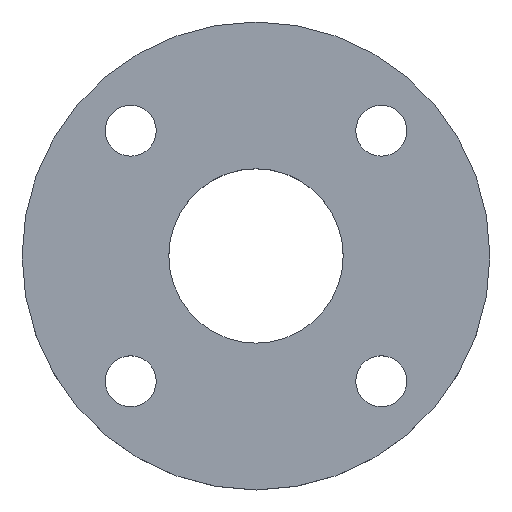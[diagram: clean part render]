
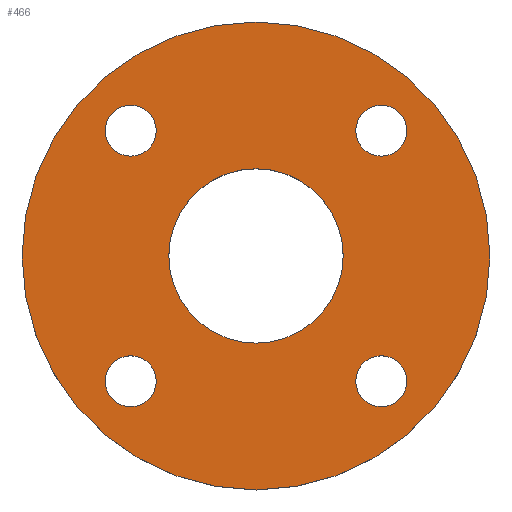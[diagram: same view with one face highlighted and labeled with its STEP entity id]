
A CAD part, top view. The second image highlights one B-rep face of the part: STEP entity #466.
In plain terms, the highlighted planar face has unit normal (0, 0, 1).
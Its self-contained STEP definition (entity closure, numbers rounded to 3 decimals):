
#1 = CIRCLE ( 'NONE', #52, 82.5 ) ;
#5 = EDGE_CURVE ( 'NONE', #103, #34, #19, .T. ) ;
#6 = EDGE_CURVE ( 'NONE', #61, #118, #1, .T. ) ;
#9 = AXIS2_PLACEMENT_3D ( 'NONE', #166, #167, #168 ) ;
#13 = ORIENTED_EDGE ( 'NONE', *, *, #5, .T. ) ;
#19 = CIRCLE ( 'NONE', #9, 9. ) ;
#26 = DIRECTION ( 'NONE',  ( 0., 0., -1. ) ) ;
#27 = EDGE_CURVE ( 'NONE', #79, #62, #131, .T. ) ;
#34 = VERTEX_POINT ( 'NONE', #189 ) ;
#47 = ORIENTED_EDGE ( 'NONE', *, *, #416, .T. ) ;
#50 = ORIENTED_EDGE ( 'NONE', *, *, #237, .T. ) ;
#52 = AXIS2_PLACEMENT_3D ( 'NONE', #169, #170, #171 ) ;
#58 = ORIENTED_EDGE ( 'NONE', *, *, #352, .T. ) ;
#61 = VERTEX_POINT ( 'NONE', #199 ) ;
#62 = VERTEX_POINT ( 'NONE', #200 ) ;
#64 = VERTEX_POINT ( 'NONE', #201 ) ;
#67 = VERTEX_POINT ( 'NONE', #203 ) ;
#68 = VERTEX_POINT ( 'NONE', #205 ) ;
#71 = ORIENTED_EDGE ( 'NONE', *, *, #507, .T. ) ;
#73 = AXIS2_PLACEMENT_3D ( 'NONE', #244, #245, #247 ) ;
#74 = CIRCLE ( 'NONE', #153, 9. ) ;
#75 = ORIENTED_EDGE ( 'NONE', *, *, #476, .T. ) ;
#79 = VERTEX_POINT ( 'NONE', #214 ) ;
#80 = ORIENTED_EDGE ( 'NONE', *, *, #192, .T. ) ;
#82 = CIRCLE ( 'NONE', #417, 9. ) ;
#87 = ORIENTED_EDGE ( 'NONE', *, *, #298, .T. ) ;
#103 = VERTEX_POINT ( 'NONE', #224 ) ;
#107 = VERTEX_POINT ( 'NONE', #225 ) ;
#118 = VERTEX_POINT ( 'NONE', #226 ) ;
#120 = ORIENTED_EDGE ( 'NONE', *, *, #6, .T. ) ;
#125 = ORIENTED_EDGE ( 'NONE', *, *, #475, .T. ) ;
#131 = CIRCLE ( 'NONE', #221, 30.75 ) ;
#133 = EDGE_LOOP ( 'NONE', ( #50, #125 ) ) ;
#144 = EDGE_CURVE ( 'NONE', #118, #61, #338, .T. ) ;
#145 = EDGE_LOOP ( 'NONE', ( #13, #75 ) ) ;
#147 = EDGE_LOOP ( 'NONE', ( #71, #213 ) ) ;
#148 = EDGE_LOOP ( 'NONE', ( #58, #80 ) ) ;
#150 = EDGE_LOOP ( 'NONE', ( #47, #87 ) ) ;
#153 = AXIS2_PLACEMENT_3D ( 'NONE', #220, #26, #440 ) ;
#157 = VERTEX_POINT ( 'NONE', #250 ) ;
#158 = ORIENTED_EDGE ( 'NONE', *, *, #144, .T. ) ;
#162 = EDGE_LOOP ( 'NONE', ( #120, #158 ) ) ;
#166 = CARTESIAN_POINT ( 'NONE',  ( -44.194, -44.194, 0. ) ) ;
#167 = DIRECTION ( 'NONE',  ( 0., 0., -1. ) ) ;
#168 = DIRECTION ( 'NONE',  ( -1., 0., 0. ) ) ;
#169 = CARTESIAN_POINT ( 'NONE',  ( 0., 0., 0. ) ) ;
#170 = DIRECTION ( 'NONE',  ( 0., 0., 1. ) ) ;
#171 = DIRECTION ( 'NONE',  ( 1., 0., 0. ) ) ;
#180 = CARTESIAN_POINT ( 'NONE',  ( 0., 0., 0. ) ) ;
#184 = DIRECTION ( 'NONE',  ( 0., 0., -1. ) ) ;
#187 = DIRECTION ( 'NONE',  ( -1., 0., 0. ) ) ;
#189 = CARTESIAN_POINT ( 'NONE',  ( -53.194, -44.194, 0. ) ) ;
#192 = EDGE_CURVE ( 'NONE', #212, #67, #478, .T. ) ;
#199 = CARTESIAN_POINT ( 'NONE',  ( 82.5, 0., 0. ) ) ;
#200 = CARTESIAN_POINT ( 'NONE',  ( -30.75, 0., 0. ) ) ;
#201 = CARTESIAN_POINT ( 'NONE',  ( -53.194, 44.194, 0. ) ) ;
#203 = CARTESIAN_POINT ( 'NONE',  ( 53.194, 44.194, 0. ) ) ;
#204 = CIRCLE ( 'NONE', #288, 9. ) ;
#205 = CARTESIAN_POINT ( 'NONE',  ( 35.194, -44.194, 0. ) ) ;
#206 = CIRCLE ( 'NONE', #497, 30.75 ) ;
#212 = VERTEX_POINT ( 'NONE', #266 ) ;
#213 = ORIENTED_EDGE ( 'NONE', *, *, #27, .T. ) ;
#214 = CARTESIAN_POINT ( 'NONE',  ( 30.75, 0., 0. ) ) ;
#220 = CARTESIAN_POINT ( 'NONE',  ( 44.194, -44.194, 0. ) ) ;
#221 = AXIS2_PLACEMENT_3D ( 'NONE', #180, #184, #187 ) ;
#224 = CARTESIAN_POINT ( 'NONE',  ( -35.194, -44.194, 0. ) ) ;
#225 = CARTESIAN_POINT ( 'NONE',  ( 53.194, -44.194, 0. ) ) ;
#226 = CARTESIAN_POINT ( 'NONE',  ( -82.5, 0., 0. ) ) ;
#237 = EDGE_CURVE ( 'NONE', #107, #68, #204, .T. ) ;
#240 = AXIS2_PLACEMENT_3D ( 'NONE', #256, #257, #258 ) ;
#242 = AXIS2_PLACEMENT_3D ( 'NONE', #441, #443, #445 ) ;
#244 = CARTESIAN_POINT ( 'NONE',  ( 0., 0., 0. ) ) ;
#245 = DIRECTION ( 'NONE',  ( 0., 0., 1. ) ) ;
#247 = DIRECTION ( 'NONE',  ( 1., 0., 0. ) ) ;
#250 = CARTESIAN_POINT ( 'NONE',  ( -35.194, 44.194, 0. ) ) ;
#252 = CIRCLE ( 'NONE', #508, 9. ) ;
#256 = CARTESIAN_POINT ( 'NONE',  ( 44.194, 44.194, 0. ) ) ;
#257 = DIRECTION ( 'NONE',  ( 0., 0., -1. ) ) ;
#258 = DIRECTION ( 'NONE',  ( -1., 0., 0. ) ) ;
#266 = CARTESIAN_POINT ( 'NONE',  ( 35.194, 44.194, 0. ) ) ;
#278 = DIRECTION ( 'NONE',  ( -1., 0., 0. ) ) ;
#279 = CARTESIAN_POINT ( 'NONE',  ( 44.194, -44.194, 0. ) ) ;
#282 = DIRECTION ( 'NONE',  ( 0., 0., -1. ) ) ;
#288 = AXIS2_PLACEMENT_3D ( 'NONE', #279, #282, #278 ) ;
#298 = EDGE_CURVE ( 'NONE', #64, #157, #376, .T. ) ;
#337 = CARTESIAN_POINT ( 'NONE',  ( -44.194, 44.194, 0. ) ) ;
#338 = CIRCLE ( 'NONE', #73, 82.5 ) ;
#340 = DIRECTION ( 'NONE',  ( 0., 0., -1. ) ) ;
#341 = DIRECTION ( 'NONE',  ( -1., 0., 0. ) ) ;
#352 = EDGE_CURVE ( 'NONE', #67, #212, #82, .T. ) ;
#361 = CARTESIAN_POINT ( 'NONE',  ( 44.194, 44.194, 0. ) ) ;
#362 = DIRECTION ( 'NONE',  ( 0., 0., -1. ) ) ;
#363 = DIRECTION ( 'NONE',  ( -1., 0., 0. ) ) ;
#372 = CARTESIAN_POINT ( 'NONE',  ( -44.194, 44.194, 0. ) ) ;
#373 = DIRECTION ( 'NONE',  ( 0., 0., -1. ) ) ;
#374 = DIRECTION ( 'NONE',  ( -1., 0., 0. ) ) ;
#376 = CIRCLE ( 'NONE', #446, 9. ) ;
#411 = FACE_BOUND ( 'NONE', #133, .T. ) ;
#412 = FACE_BOUND ( 'NONE', #145, .T. ) ;
#413 = FACE_BOUND ( 'NONE', #150, .T. ) ;
#414 = FACE_BOUND ( 'NONE', #148, .T. ) ;
#416 = EDGE_CURVE ( 'NONE', #157, #64, #252, .T. ) ;
#417 = AXIS2_PLACEMENT_3D ( 'NONE', #361, #362, #363 ) ;
#418 = FACE_BOUND ( 'NONE', #147, .T. ) ;
#419 = FACE_OUTER_BOUND ( 'NONE', #162, .T. ) ;
#420 = PLANE ( 'NONE',  #489 ) ;
#421 = CARTESIAN_POINT ( 'NONE',  ( 0., 0., 0. ) ) ;
#422 = DIRECTION ( 'NONE',  ( 0., 0., 1. ) ) ;
#423 = DIRECTION ( 'NONE',  ( 1., 0., 0. ) ) ;
#440 = DIRECTION ( 'NONE',  ( -1., 0., 0. ) ) ;
#441 = CARTESIAN_POINT ( 'NONE',  ( -44.194, -44.194, 0. ) ) ;
#443 = DIRECTION ( 'NONE',  ( 0., 0., -1. ) ) ;
#445 = DIRECTION ( 'NONE',  ( -1., 0., 0. ) ) ;
#446 = AXIS2_PLACEMENT_3D ( 'NONE', #337, #340, #341 ) ;
#461 = CARTESIAN_POINT ( 'NONE',  ( 0., 0., 0. ) ) ;
#462 = DIRECTION ( 'NONE',  ( 0., 0., -1. ) ) ;
#463 = DIRECTION ( 'NONE',  ( -1., 0., 0. ) ) ;
#466 = ADVANCED_FACE ( 'NONE', ( #411, #412, #413, #414, #418, #419 ), #420, .T. ) ;
#475 = EDGE_CURVE ( 'NONE', #68, #107, #74, .T. ) ;
#476 = EDGE_CURVE ( 'NONE', #34, #103, #479, .T. ) ;
#478 = CIRCLE ( 'NONE', #240, 9. ) ;
#479 = CIRCLE ( 'NONE', #242, 9. ) ;
#489 = AXIS2_PLACEMENT_3D ( 'NONE', #421, #422, #423 ) ;
#497 = AXIS2_PLACEMENT_3D ( 'NONE', #461, #462, #463 ) ;
#507 = EDGE_CURVE ( 'NONE', #62, #79, #206, .T. ) ;
#508 = AXIS2_PLACEMENT_3D ( 'NONE', #372, #373, #374 ) ;
